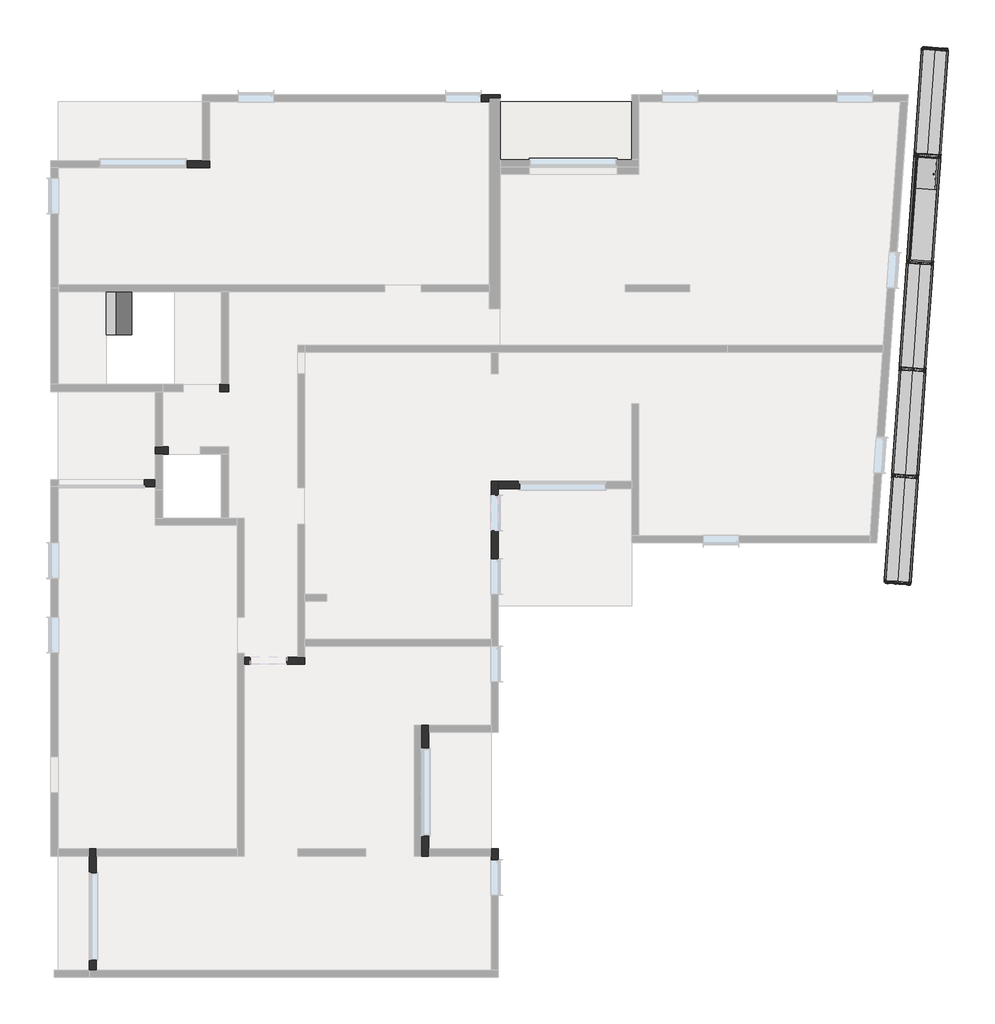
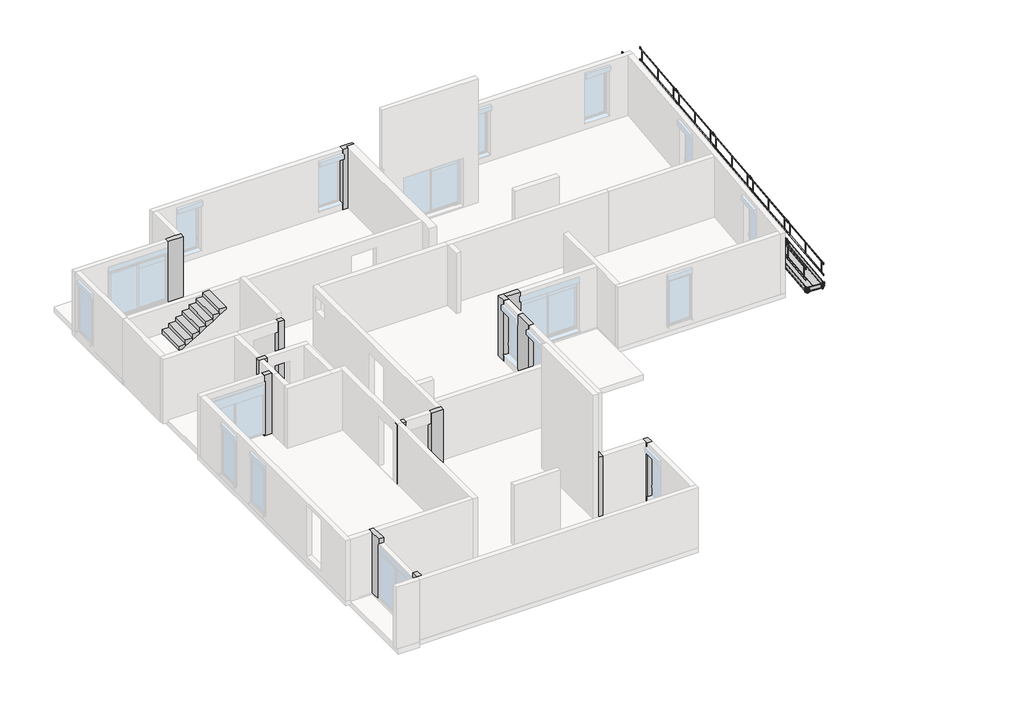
# One storey, part 3 of 3: 55 proxies, 17 columns, 1 slab, 1 stair flight.
"""IFC4 building model written with IfcOpenShell, lengths in millimetres."""

from ifc_helpers import new_model, si_unit, frame, origin, place, context, project, spatial, polyline, outline, extrude, faceted_brep, transform, mapped, element, save
from components import generic_models_b6224320, generic_models_870fb608, generic_models_6026e95e, generic_models_c9bf4d4e, generic_models_8fe25d63, proxy_03_lisse_70_0da8a22d, proxy_04_lisse_3_m_913477d2

model = new_model("IFC4")

# Units and contexts
model_context = context("Model", 3, world=origin())
ifc_project = project(units=[si_unit("LENGTHUNIT", "METRE", prefix="MILLI")], contexts=[model_context])

# Site, building, storey
site = spatial("IfcSite", under=ifc_project)
building = spatial("IfcBuilding", under=site)
storey = spatial("IfcBuildingStorey", under=building, Name="06-Plateau 6", Elevation=10400.0)

# Proxies
placement = place(None, origin())
generic_models_shape = generic_models_b6224320(model_context)
element("IfcBuildingElementProxy", 1, Name="05-Plateau 3.00 m : JPA Plateau Galva", ObjectType="05-Plateau 3.00 m : JPA Plateau Galva", at=placement, inside=storey, context=model_context, shape_type="MappedRepresentation", body=[
    mapped(generic_models_shape, transform((17696.6144519, 11330.0091436, 10400.0), x_axis=(0.06975647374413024, 0.997564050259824, 0.0), y_axis=(-0.997564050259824, 0.06975647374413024, 0.0), z_axis=(0.0, 0.0, 1.0))),
])
element("IfcBuildingElementProxy", 2, Name="05-Plateau 3.00 m : JPA Plateau Galva", ObjectType="05-Plateau 3.00 m : JPA Plateau Galva", at=placement, inside=storey, context=model_context, shape_type="MappedRepresentation", body=[
    mapped(generic_models_shape, transform((18015.8349479, 11307.687072, 10400.0), x_axis=(0.06975647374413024, 0.997564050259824, 0.0), y_axis=(-0.997564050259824, 0.06975647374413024, 0.0), z_axis=(0.0, 0.0, 1.0))),
])
element("IfcBuildingElementProxy", 3, Name="05-Plateau 3.00 m : JPA Plateau Galva", ObjectType="05-Plateau 3.00 m : JPA Plateau Galva", at=placement, inside=storey, context=model_context, shape_type="MappedRepresentation", body=[
    mapped(generic_models_shape, transform((18115.6220564, 17322.0970558, 10400.0), x_axis=(0.06975647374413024, 0.997564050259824, 0.0), y_axis=(-0.997564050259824, 0.06975647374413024, 0.0), z_axis=(0.0, 0.0, 1.0))),
])
element("IfcBuildingElementProxy", 4, Name="05-Plateau 3.00 m : JPA Plateau Galva", ObjectType="05-Plateau 3.00 m : JPA Plateau Galva", at=placement, inside=storey, context=model_context, shape_type="MappedRepresentation", body=[
    mapped(generic_models_shape, transform((18434.8425525, 17299.7749842, 10400.0), x_axis=(0.06975647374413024, 0.997564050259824, 0.0), y_axis=(-0.997564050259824, 0.06975647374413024, 0.0), z_axis=(0.0, 0.0, 1.0))),
])
element("IfcBuildingElementProxy", 5, Name="05-Plateau 3.00 m : JPA Plateau Galva", ObjectType="05-Plateau 3.00 m : JPA Plateau Galva", at=placement, inside=storey, context=model_context, shape_type="MappedRepresentation", body=[
    mapped(generic_models_shape, transform((17487.1106496, 8333.9651875, 10400.0), x_axis=(0.06975647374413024, 0.997564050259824, 0.0), y_axis=(-0.997564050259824, 0.06975647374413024, 0.0), z_axis=(0.0, 0.0, 1.0))),
])
element("IfcBuildingElementProxy", 6, Name="05-Plateau 3.00 m : JPA Plateau Galva", ObjectType="05-Plateau 3.00 m : JPA Plateau Galva", at=placement, inside=storey, context=model_context, shape_type="MappedRepresentation", body=[
    mapped(generic_models_shape, transform((17806.3311456, 8311.6431159, 10400.0), x_axis=(0.06975647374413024, 0.997564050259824, 0.0), y_axis=(-0.997564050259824, 0.06975647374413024, 0.0), z_axis=(0.0, 0.0, 1.0))),
])
element("IfcBuildingElementProxy", 7, Name="05-Plateau 3.00 m : JPA Plateau Galva", ObjectType="05-Plateau 3.00 m : JPA Plateau Galva", at=placement, inside=storey, context=model_context, shape_type="MappedRepresentation", body=[
    mapped(generic_models_shape, transform((17277.6068473, 5337.9212313, 10400.0), x_axis=(0.06975647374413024, 0.997564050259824, 0.0), y_axis=(-0.997564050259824, 0.06975647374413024, 0.0), z_axis=(0.0, 0.0, 1.0))),
])
element("IfcBuildingElementProxy", 8, Name="05-Plateau 3.00 m : JPA Plateau Galva", ObjectType="05-Plateau 3.00 m : JPA Plateau Galva", at=placement, inside=storey, context=model_context, shape_type="MappedRepresentation", body=[
    mapped(generic_models_shape, transform((17596.8273433, 5315.5991597, 10400.0), x_axis=(0.06975647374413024, 0.997564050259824, 0.0), y_axis=(-0.997564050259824, 0.06975647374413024, 0.0), z_axis=(0.0, 0.0, 1.0))),
])
generic_models_2_shape = generic_models_870fb608(model_context)
element("IfcBuildingElementProxy", 9, Name="07-Plancher trappe : JPA Plancher trappe", ObjectType="07-Plancher trappe : JPA Plancher trappe", at=placement, inside=storey, context=model_context, shape_type="MappedRepresentation", body=[
    mapped(generic_models_2_shape, transform((18144.5472757, 17305.6793517, 10400.0), x_axis=(-0.06975647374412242, -0.9975640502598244, 0.0), y_axis=(0.9975640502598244, -0.06975647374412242, 0.0), z_axis=(0.0, 0.0, 1.0))),
])
generic_models_3_shape = generic_models_6026e95e(model_context)
element("IfcBuildingElementProxy", 10, Name="11-Plinthe 0.70 : JPA Plinthe 0.70", ObjectType="11-Plinthe 0.70 : JPA Plinthe 0.70", at=placement, inside=storey, context=model_context, shape_type="MappedRepresentation", body=[
    mapped(generic_models_3_shape, transform((17293.9283677, 5332.6495195, 10400.0), x_axis=(0.9970739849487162, -0.07644258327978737, 0.0), y_axis=(0.07644258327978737, 0.9970739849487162, 0.0), z_axis=(0.0, 0.0, 1.0))),
])
element("IfcBuildingElementProxy", 11, Name="11-Plinthe 0.70 : JPA Plinthe 0.70", ObjectType="11-Plinthe 0.70 : JPA Plinthe 0.70", at=placement, inside=storey, context=model_context, shape_type="MappedRepresentation", body=[
    mapped(generic_models_3_shape, transform((18342.1895888, 20323.4833915, 10400.0), x_axis=(0.9970739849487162, -0.07644258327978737, 0.0), y_axis=(0.07644258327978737, 0.9970739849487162, 0.0), z_axis=(0.0, 0.0, 1.0))),
])
generic_models_4_shape = generic_models_c9bf4d4e(model_context)
element("IfcBuildingElementProxy", 12, Name="12-Plinthe 3 m : JPA Plinthe 3 m", ObjectType="12-Plinthe 3 m : JPA Plinthe 3 m", at=placement, inside=storey, context=model_context, shape_type="MappedRepresentation", body=[
    mapped(generic_models_4_shape, transform((17696.788843, 11332.5030537, 10400.0), x_axis=(0.06975647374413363, 0.9975640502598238, 0.0), y_axis=(-0.9975640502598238, 0.06975647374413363, 0.0), z_axis=(0.0, 0.0, 1.0))),
])
element("IfcBuildingElementProxy", 13, Name="12-Plinthe 3 m : JPA Plinthe 3 m", ObjectType="12-Plinthe 3 m : JPA Plinthe 3 m", at=placement, inside=storey, context=model_context, shape_type="MappedRepresentation", body=[
    mapped(generic_models_4_shape, transform((18395.0836782, 11283.6735221, 10400.0), x_axis=(0.06975647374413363, 0.9975640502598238, 0.0), y_axis=(-0.9975640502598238, 0.06975647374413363, 0.0), z_axis=(0.0, 0.0, 1.0))),
])
element("IfcBuildingElementProxy", 14, Name="12-Plinthe 3 m : JPA Plinthe 3 m", ObjectType="12-Plinthe 3 m : JPA Plinthe 3 m", at=placement, inside=storey, context=model_context, shape_type="MappedRepresentation", body=[
    mapped(generic_models_4_shape, transform((17906.2926453, 14328.5470098, 10400.0), x_axis=(0.06975647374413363, 0.9975640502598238, 0.0), y_axis=(-0.9975640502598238, 0.06975647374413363, 0.0), z_axis=(0.0, 0.0, 1.0))),
])
element("IfcBuildingElementProxy", 15, Name="12-Plinthe 3 m : JPA Plinthe 3 m", ObjectType="12-Plinthe 3 m : JPA Plinthe 3 m", at=placement, inside=storey, context=model_context, shape_type="MappedRepresentation", body=[
    mapped(generic_models_4_shape, transform((18604.5874805, 14279.7174782, 10400.0), x_axis=(0.06975647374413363, 0.9975640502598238, 0.0), y_axis=(-0.9975640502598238, 0.06975647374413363, 0.0), z_axis=(0.0, 0.0, 1.0))),
])
element("IfcBuildingElementProxy", 16, Name="12-Plinthe 3 m : JPA Plinthe 3 m", ObjectType="12-Plinthe 3 m : JPA Plinthe 3 m", at=placement, inside=storey, context=model_context, shape_type="MappedRepresentation", body=[
    mapped(generic_models_4_shape, transform((18115.7964476, 17324.590966, 10400.0), x_axis=(0.06975647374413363, 0.9975640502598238, 0.0), y_axis=(-0.9975640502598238, 0.06975647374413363, 0.0), z_axis=(0.0, 0.0, 1.0))),
])
element("IfcBuildingElementProxy", 17, Name="12-Plinthe 3 m : JPA Plinthe 3 m", ObjectType="12-Plinthe 3 m : JPA Plinthe 3 m", at=placement, inside=storey, context=model_context, shape_type="MappedRepresentation", body=[
    mapped(generic_models_4_shape, transform((18814.0912828, 17275.7614343, 10400.0), x_axis=(0.06975647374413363, 0.9975640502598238, 0.0), y_axis=(-0.9975640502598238, 0.06975647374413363, 0.0), z_axis=(0.0, 0.0, 1.0))),
])
element("IfcBuildingElementProxy", 18, Name="12-Plinthe 3 m : JPA Plinthe 3 m", ObjectType="12-Plinthe 3 m : JPA Plinthe 3 m", at=placement, inside=storey, context=model_context, shape_type="MappedRepresentation", body=[
    mapped(generic_models_4_shape, transform((17487.2850407, 8336.4590976, 10400.0), x_axis=(0.06975647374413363, 0.9975640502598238, 0.0), y_axis=(-0.9975640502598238, 0.06975647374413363, 0.0), z_axis=(0.0, 0.0, 1.0))),
])
element("IfcBuildingElementProxy", 19, Name="12-Plinthe 3 m : JPA Plinthe 3 m", ObjectType="12-Plinthe 3 m : JPA Plinthe 3 m", at=placement, inside=storey, context=model_context, shape_type="MappedRepresentation", body=[
    mapped(generic_models_4_shape, transform((18185.5798759, 8287.629566, 10400.0), x_axis=(0.06975647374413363, 0.9975640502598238, 0.0), y_axis=(-0.9975640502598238, 0.06975647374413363, 0.0), z_axis=(0.0, 0.0, 1.0))),
])
element("IfcBuildingElementProxy", 20, Name="12-Plinthe 3 m : JPA Plinthe 3 m", ObjectType="12-Plinthe 3 m : JPA Plinthe 3 m", at=placement, inside=storey, context=model_context, shape_type="MappedRepresentation", body=[
    mapped(generic_models_4_shape, transform((17277.7812384, 5340.4151415, 10400.0), x_axis=(0.06975647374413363, 0.9975640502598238, 0.0), y_axis=(-0.9975640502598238, 0.06975647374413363, 0.0), z_axis=(0.0, 0.0, 1.0))),
])
element("IfcBuildingElementProxy", 21, Name="12-Plinthe 3 m : JPA Plinthe 3 m", ObjectType="12-Plinthe 3 m : JPA Plinthe 3 m", at=placement, inside=storey, context=model_context, shape_type="MappedRepresentation", body=[
    mapped(generic_models_4_shape, transform((17976.0760736, 5291.5856098, 10400.0), x_axis=(0.06975647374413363, 0.9975640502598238, 0.0), y_axis=(-0.9975640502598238, 0.06975647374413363, 0.0), z_axis=(0.0, 0.0, 1.0))),
])
generic_models_5_shape = generic_models_8fe25d63(model_context)
element("IfcBuildingElementProxy", 22, Name="14-Garde corps 300 : JPA Garde corps 300", ObjectType="14-Garde corps 300 : JPA Garde corps 300", at=placement, inside=storey, context=model_context, shape_type="MappedRepresentation", body=[
    mapped(generic_models_5_shape, transform((17696.7673576, 11331.7493383, 10400.0), x_axis=(0.06975647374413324, 0.9975640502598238, 0.0), y_axis=(-0.9975640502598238, 0.06975647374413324, 0.0), z_axis=(0.0, 0.0, 1.0))),
])
element("IfcBuildingElementProxy", 23, Name="14-Garde corps 300 : JPA Garde corps 300", ObjectType="14-Garde corps 300 : JPA Garde corps 300", at=placement, inside=storey, context=model_context, shape_type="MappedRepresentation", body=[
    mapped(generic_models_5_shape, transform((17906.2711598, 14327.7932944, 10400.0), x_axis=(0.06975647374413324, 0.9975640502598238, 0.0), y_axis=(-0.9975640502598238, 0.06975647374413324, 0.0), z_axis=(0.0, 0.0, 1.0))),
])
element("IfcBuildingElementProxy", 24, Name="14-Garde corps 300 : JPA Garde corps 300", ObjectType="14-Garde corps 300 : JPA Garde corps 300", at=placement, inside=storey, context=model_context, shape_type="MappedRepresentation", body=[
    mapped(generic_models_5_shape, transform((18115.7749621, 17323.8372506, 10400.0), x_axis=(0.06975647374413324, 0.9975640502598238, 0.0), y_axis=(-0.9975640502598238, 0.06975647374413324, 0.0), z_axis=(0.0, 0.0, 1.0))),
])
element("IfcBuildingElementProxy", 25, Name="14-Garde corps 300 : JPA Garde corps 300", ObjectType="14-Garde corps 300 : JPA Garde corps 300", at=placement, inside=storey, context=model_context, shape_type="MappedRepresentation", body=[
    mapped(generic_models_5_shape, transform((17487.2635553, 8335.7053822, 10400.0), x_axis=(0.06975647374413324, 0.9975640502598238, 0.0), y_axis=(-0.9975640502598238, 0.06975647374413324, 0.0), z_axis=(0.0, 0.0, 1.0))),
])
element("IfcBuildingElementProxy", 26, Name="14-Garde corps 300 : JPA Garde corps 300", ObjectType="14-Garde corps 300 : JPA Garde corps 300", at=placement, inside=storey, context=model_context, shape_type="MappedRepresentation", body=[
    mapped(generic_models_5_shape, transform((18814.2002275, 17273.8372506, 10400.0), x_axis=(0.06975647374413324, 0.9975640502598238, 0.0), y_axis=(-0.9975640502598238, 0.06975647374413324, 0.0), z_axis=(0.0, 0.0, 1.0))),
])
element("IfcBuildingElementProxy", 27, Name="14-Garde corps 300 : JPA Garde corps 300", ObjectType="14-Garde corps 300 : JPA Garde corps 300", at=placement, inside=storey, context=model_context, shape_type="MappedRepresentation", body=[
    mapped(generic_models_5_shape, transform((18604.2002275, 14273.8372506, 10400.0), x_axis=(0.06975647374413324, 0.9975640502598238, 0.0), y_axis=(-0.9975640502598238, 0.06975647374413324, 0.0), z_axis=(0.0, 0.0, 1.0))),
])
element("IfcBuildingElementProxy", 28, Name="14-Garde corps 300 : JPA Garde corps 300", ObjectType="14-Garde corps 300 : JPA Garde corps 300", at=placement, inside=storey, context=model_context, shape_type="MappedRepresentation", body=[
    mapped(generic_models_5_shape, transform((18394.9308063, 11281.1450998, 10400.0), x_axis=(0.06975647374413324, 0.9975640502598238, 0.0), y_axis=(-0.9975640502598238, 0.06975647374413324, 0.0), z_axis=(0.0, 0.0, 1.0))),
])
element("IfcBuildingElementProxy", 29, Name="14-Garde corps 300 : JPA Garde corps 300", ObjectType="14-Garde corps 300 : JPA Garde corps 300", at=placement, inside=storey, context=model_context, shape_type="MappedRepresentation", body=[
    mapped(generic_models_5_shape, transform((18185.427004, 8285.1011437, 10400.0), x_axis=(0.06975647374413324, 0.9975640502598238, 0.0), y_axis=(-0.9975640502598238, 0.06975647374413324, 0.0), z_axis=(0.0, 0.0, 1.0))),
])
element("IfcBuildingElementProxy", 30, Name="14-Garde corps 300 : JPA Garde corps 300", ObjectType="14-Garde corps 300 : JPA Garde corps 300", at=placement, inside=storey, context=model_context, shape_type="MappedRepresentation", body=[
    mapped(generic_models_5_shape, transform((17277.759753, 5339.6614261, 10400.0), x_axis=(0.06975647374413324, 0.9975640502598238, 0.0), y_axis=(-0.9975640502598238, 0.06975647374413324, 0.0), z_axis=(0.0, 0.0, 1.0))),
])
element("IfcBuildingElementProxy", 31, Name="14-Garde corps 300 : JPA Garde corps 300", ObjectType="14-Garde corps 300 : JPA Garde corps 300", at=placement, inside=storey, context=model_context, shape_type="MappedRepresentation", body=[
    mapped(generic_models_5_shape, transform((17975.9232017, 5289.0571875, 10400.0), x_axis=(0.06975647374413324, 0.9975640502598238, 0.0), y_axis=(-0.9975640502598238, 0.06975647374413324, 0.0), z_axis=(0.0, 0.0, 1.0))),
])
proxy_03_lisse_70_shape = proxy_03_lisse_70_0da8a22d(model_context)
element("IfcBuildingElementProxy", 32, Name="03-Lisse 70 : JPA Lisse Galva", ObjectType="03-Lisse 70 : JPA Lisse Galva", at=placement, inside=storey, context=model_context, shape_type="MappedRepresentation", body=[
    mapped(proxy_03_lisse_70_shape, transform((17687.6637048, 11325.7592688, 10400.0), x_axis=(0.9975640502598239, -0.06975647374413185, 0.0), y_axis=(0.06975647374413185, 0.9975640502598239, 0.0), z_axis=(0.0, 0.0, 1.0))),
])
element("IfcBuildingElementProxy", 33, Name="03-Lisse 70 : JPA Lisse Galva", ObjectType="03-Lisse 70 : JPA Lisse Galva", at=placement, inside=storey, context=model_context, shape_type="MappedRepresentation", body=[
    mapped(proxy_03_lisse_70_shape, transform((17897.1675071, 14321.8032249, 10400.0), x_axis=(0.9975640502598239, -0.06975647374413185, 0.0), y_axis=(0.06975647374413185, 0.9975640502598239, 0.0), z_axis=(0.0, 0.0, 1.0))),
])
element("IfcBuildingElementProxy", 34, Name="03-Lisse 70 : JPA Lisse Galva", ObjectType="03-Lisse 70 : JPA Lisse Galva", at=placement, inside=storey, context=model_context, shape_type="MappedRepresentation", body=[
    mapped(proxy_03_lisse_70_shape, transform((18106.6713094, 17317.847181, 10400.0), x_axis=(0.9975640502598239, -0.06975647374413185, 0.0), y_axis=(0.06975647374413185, 0.9975640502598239, 0.0), z_axis=(0.0, 0.0, 1.0))),
])
element("IfcBuildingElementProxy", 35, Name="03-Lisse 70 : JPA Lisse Galva", ObjectType="03-Lisse 70 : JPA Lisse Galva", at=placement, inside=storey, context=model_context, shape_type="MappedRepresentation", body=[
    mapped(proxy_03_lisse_70_shape, transform((18311.1751117, 20323.8911372, 10400.0), x_axis=(0.9975640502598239, -0.06975647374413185, 0.0), y_axis=(0.06975647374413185, 0.9975640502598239, 0.0), z_axis=(0.0, 0.0, 1.0))),
])
element("IfcBuildingElementProxy", 36, Name="03-Lisse 70 : JPA Lisse Galva", ObjectType="03-Lisse 70 : JPA Lisse Galva", at=placement, inside=storey, context=model_context, shape_type="MappedRepresentation", body=[
    mapped(proxy_03_lisse_70_shape, transform((17478.1599025, 8329.7153127, 10400.0), x_axis=(0.9975640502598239, -0.06975647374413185, 0.0), y_axis=(0.06975647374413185, 0.9975640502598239, 0.0), z_axis=(0.0, 0.0, 1.0))),
])
element("IfcBuildingElementProxy", 37, Name="03-Lisse 70 : JPA Lisse Galva", ObjectType="03-Lisse 70 : JPA Lisse Galva", at=placement, inside=storey, context=model_context, shape_type="MappedRepresentation", body=[
    mapped(proxy_03_lisse_70_shape, transform((17478.1599025, 8329.7153127, 10400.0), x_axis=(0.9975640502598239, -0.06975647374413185, 0.0), y_axis=(0.06975647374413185, 0.9975640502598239, 0.0), z_axis=(0.0, 0.0, 1.0))),
])
element("IfcBuildingElementProxy", 38, Name="03-Lisse 70 : JPA Lisse Galva", ObjectType="03-Lisse 70 : JPA Lisse Galva", at=placement, inside=storey, context=model_context, shape_type="MappedRepresentation", body=[
    mapped(proxy_03_lisse_70_shape, transform((17268.6561002, 5333.6713565, 10400.0), x_axis=(0.9975640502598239, -0.06975647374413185, 0.0), y_axis=(0.06975647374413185, 0.9975640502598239, 0.0), z_axis=(0.0, 0.0, 1.0))),
])
proxy_04_lisse_3_m_shape = proxy_04_lisse_3_m_913477d2(model_context)
element("IfcBuildingElementProxy", 39, Name="04-Lisse 3 m : JPA Lisse Galva", ObjectType="04-Lisse 3 m : JPA Lisse Galva", at=placement, inside=storey, context=model_context, shape_type="MappedRepresentation", body=[
    mapped(proxy_04_lisse_3_m_shape, transform((18185.5798759, 8287.629566, 10400.0), x_axis=(0.06975647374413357, 0.9975640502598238, 0.0), y_axis=(-0.9975640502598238, 0.06975647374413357, 0.0), z_axis=(0.0, 0.0, 1.0))),
])
element("IfcBuildingElementProxy", 40, Name="04-Lisse 3 m : JPA Lisse Galva", ObjectType="04-Lisse 3 m : JPA Lisse Galva", at=placement, inside=storey, context=model_context, shape_type="MappedRepresentation", body=[
    mapped(proxy_04_lisse_3_m_shape, transform((18394.2117223, 11271.2039715, 10400.0), x_axis=(0.06975647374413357, 0.9975640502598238, 0.0), y_axis=(-0.9975640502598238, 0.06975647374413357, 0.0), z_axis=(0.0, 0.0, 1.0))),
])
element("IfcBuildingElementProxy", 41, Name="04-Lisse 3 m : JPA Lisse Galva", ObjectType="04-Lisse 3 m : JPA Lisse Galva", at=placement, inside=storey, context=model_context, shape_type="MappedRepresentation", body=[
    mapped(proxy_04_lisse_3_m_shape, transform((18604.1764114, 14273.838916, 10400.0), x_axis=(0.06975647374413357, 0.9975640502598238, 0.0), y_axis=(-0.9975640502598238, 0.06975647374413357, 0.0), z_axis=(0.0, 0.0, 1.0))),
])
element("IfcBuildingElementProxy", 42, Name="04-Lisse 3 m : JPA Lisse Galva", ObjectType="04-Lisse 3 m : JPA Lisse Galva", at=placement, inside=storey, context=model_context, shape_type="MappedRepresentation", body=[
    mapped(proxy_04_lisse_3_m_shape, transform((18813.5502996, 17268.0250134, 10400.0), x_axis=(0.06975647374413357, 0.9975640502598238, 0.0), y_axis=(-0.9975640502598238, 0.06975647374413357, 0.0), z_axis=(0.0, 0.0, 1.0))),
])
element("IfcBuildingElementProxy", 43, Name="04-Lisse 3 m : JPA Lisse Galva", ObjectType="04-Lisse 3 m : JPA Lisse Galva", at=placement, inside=storey, context=model_context, shape_type="MappedRepresentation", body=[
    mapped(proxy_04_lisse_3_m_shape, transform((17976.0760736, 5291.5856098, 10400.0), x_axis=(0.06975647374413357, 0.9975640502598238, 0.0), y_axis=(-0.9975640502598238, 0.06975647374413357, 0.0), z_axis=(0.0, 0.0, 1.0))),
])
element("IfcBuildingElementProxy", 44, Name="04-Lisse 3 m : JPA Lisse Galva", ObjectType="04-Lisse 3 m : JPA Lisse Galva", at=placement, inside=storey, context=model_context, shape_type="MappedRepresentation", body=[
    mapped(proxy_04_lisse_3_m_shape, transform((17487.2850407, 8336.4590976, 10400.0), x_axis=(0.06975647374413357, 0.9975640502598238, 0.0), y_axis=(-0.9975640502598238, 0.06975647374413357, 0.0), z_axis=(0.0, 0.0, 1.0))),
])
element("IfcBuildingElementProxy", 45, Name="04-Lisse 3 m : JPA Lisse Galva", ObjectType="04-Lisse 3 m : JPA Lisse Galva", at=placement, inside=storey, context=model_context, shape_type="MappedRepresentation", body=[
    mapped(proxy_04_lisse_3_m_shape, transform((17695.9168871, 11320.0335031, 10400.0), x_axis=(0.06975647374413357, 0.9975640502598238, 0.0), y_axis=(-0.9975640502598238, 0.06975647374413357, 0.0), z_axis=(0.0, 0.0, 1.0))),
])
element("IfcBuildingElementProxy", 46, Name="04-Lisse 3 m : JPA Lisse Galva", ObjectType="04-Lisse 3 m : JPA Lisse Galva", at=placement, inside=storey, context=model_context, shape_type="MappedRepresentation", body=[
    mapped(proxy_04_lisse_3_m_shape, transform((17905.8815762, 14322.6684476, 10400.0), x_axis=(0.06975647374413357, 0.9975640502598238, 0.0), y_axis=(-0.9975640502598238, 0.06975647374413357, 0.0), z_axis=(0.0, 0.0, 1.0))),
])
element("IfcBuildingElementProxy", 47, Name="04-Lisse 3 m : JPA Lisse Galva", ObjectType="04-Lisse 3 m : JPA Lisse Galva", at=placement, inside=storey, context=model_context, shape_type="MappedRepresentation", body=[
    mapped(proxy_04_lisse_3_m_shape, transform((18115.2554644, 17316.8545451, 10400.0), x_axis=(0.06975647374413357, 0.9975640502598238, 0.0), y_axis=(-0.9975640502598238, 0.06975647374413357, 0.0), z_axis=(0.0, 0.0, 1.0))),
])
element("IfcBuildingElementProxy", 48, Name="04-Lisse 3 m : JPA Lisse Galva", ObjectType="04-Lisse 3 m : JPA Lisse Galva", at=placement, inside=storey, context=model_context, shape_type="MappedRepresentation", body=[
    mapped(proxy_04_lisse_3_m_shape, transform((17277.7812384, 5340.4151415, 10400.0), x_axis=(0.06975647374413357, 0.9975640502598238, 0.0), y_axis=(-0.9975640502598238, 0.06975647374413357, 0.0), z_axis=(0.0, 0.0, 1.0))),
])
element("IfcBuildingElementProxy", 49, Name="04-Lisse 3 m : JPA Lisse Galva", ObjectType="04-Lisse 3 m : JPA Lisse Galva", at=placement, inside=storey, context=model_context, shape_type="MappedRepresentation", body=[
    mapped(proxy_04_lisse_3_m_shape, transform((17500.8765554, 8353.1677495, 10400.0), x_axis=(0.06975647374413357, 0.9975640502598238, 0.0), y_axis=(-0.9975640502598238, 0.06975647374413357, 0.0), z_axis=(0.0, 0.0, 1.0))),
])
element("IfcBuildingElementProxy", 50, Name="04-Lisse 3 m : JPA Lisse Galva", ObjectType="04-Lisse 3 m : JPA Lisse Galva", at=placement, inside=storey, context=model_context, shape_type="MappedRepresentation", body=[
    mapped(proxy_04_lisse_3_m_shape, transform((17709.5084018, 11336.742155, 10400.0), x_axis=(0.06975647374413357, 0.9975640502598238, 0.0), y_axis=(-0.9975640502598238, 0.06975647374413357, 0.0), z_axis=(0.0, 0.0, 1.0))),
])
element("IfcBuildingElementProxy", 51, Name="04-Lisse 3 m : JPA Lisse Galva", ObjectType="04-Lisse 3 m : JPA Lisse Galva", at=placement, inside=storey, context=model_context, shape_type="MappedRepresentation", body=[
    mapped(proxy_04_lisse_3_m_shape, transform((17919.4730909, 14339.3770995, 10400.0), x_axis=(0.06975647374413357, 0.9975640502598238, 0.0), y_axis=(-0.9975640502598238, 0.06975647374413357, 0.0), z_axis=(0.0, 0.0, 1.0))),
])
element("IfcBuildingElementProxy", 52, Name="04-Lisse 3 m : JPA Lisse Galva", ObjectType="04-Lisse 3 m : JPA Lisse Galva", at=placement, inside=storey, context=model_context, shape_type="MappedRepresentation", body=[
    mapped(proxy_04_lisse_3_m_shape, transform((18128.846979, 17333.563197, 10400.0), x_axis=(0.06975647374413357, 0.9975640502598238, 0.0), y_axis=(-0.9975640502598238, 0.06975647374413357, 0.0), z_axis=(0.0, 0.0, 1.0))),
])
element("IfcBuildingElementProxy", 53, Name="04-Lisse 3 m : JPA Lisse Galva", ObjectType="04-Lisse 3 m : JPA Lisse Galva", at=placement, inside=storey, context=model_context, shape_type="MappedRepresentation", body=[
    mapped(proxy_04_lisse_3_m_shape, transform((17291.3727531, 5357.1237934, 10400.0), x_axis=(0.06975647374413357, 0.9975640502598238, 0.0), y_axis=(-0.9975640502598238, 0.06975647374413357, 0.0), z_axis=(0.0, 0.0, 1.0))),
])
element("IfcBuildingElementProxy", 54, Name="04-Lisse 3 m : JPA Lisse Galva", ObjectType="04-Lisse 3 m : JPA Lisse Galva", at=placement, inside=storey, context=model_context, shape_type="MappedRepresentation", body=[
    mapped(proxy_04_lisse_3_m_shape, transform((18604.1764114, 14271.2936372, 9904.432796), x_axis=(0.06975647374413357, 0.9975640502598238, 0.0), y_axis=(-0.9975640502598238, 0.06975647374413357, 0.0), z_axis=(0.0, 0.0, 1.0))),
])
element("IfcBuildingElementProxy", 55, Name="04-Lisse 3 m : JPA Lisse Galva", ObjectType="04-Lisse 3 m : JPA Lisse Galva", at=placement, inside=storey, context=model_context, shape_type="MappedRepresentation", body=[
    mapped(proxy_04_lisse_3_m_shape, transform((17919.4730909, 14336.8318207, 9904.432796), x_axis=(0.06975647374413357, 0.9975640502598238, 0.0), y_axis=(-0.9975640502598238, 0.06975647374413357, 0.0), z_axis=(0.0, 0.0, 1.0))),
])

# Columns
element("IfcColumn", 56, ObjectType="Poteau béton - Rectangulaire : 200x175", at=placement, inside=storey, context=model_context, shape_type="Brep", body=[
    faceted_brep([(-512.0447796, 3039.8622276, 9740.0), (-687.0447796, 3039.8622276, 9740.0), (-687.0447796, 3239.8622276, 9740.0), (-512.0447796, 3239.8622276, 9740.0), (-512.0447796, 3039.8622276, 11910.0), (-512.0447796, 3039.8622276, 12340.0), (-687.0447796, 3039.8622276, 12340.0), (-687.0447796, 3239.8622276, 12340.0), (-512.0447796, 3239.8622276, 12340.0), (-512.0447796, 3239.8622276, 11910.0)], [[[0, 1, 2, 3]], [[1, 0, 4, 5, 6]], [[2, 1, 6, 7]], [[3, 2, 7, 8, 9]], [[0, 3, 9, 8, 5, 4]], [[6, 5, 8, 7]]]),
])
element("IfcColumn", 57, ObjectType="Poteau béton - Rectangulaire : 200x250 mm", at=placement, inside=storey, context=model_context, shape_type="Brep", body=[
    faceted_brep([(-1377.0447796, 10879.8622276, 9740.0), (-1327.0447796, 10879.8622276, 9740.0), (-1127.0447796, 10879.8622276, 9740.0), (-1127.0447796, 10679.8622276, 9740.0), (-1377.0447796, 10679.8622276, 9740.0), (-1377.0447796, 10879.8622276, 11910.0), (-1377.0447796, 10879.8622276, 12340.0), (-1327.0447796, 10879.8622276, 12340.0), (-1127.0447796, 10879.8622276, 12340.0), (-1127.0447796, 10679.8622276, 12340.0), (-1377.0447796, 10679.8622276, 12340.0), (-1377.0447796, 10679.8622276, 11910.0)], [[[0, 1, 2, 3, 4]], [[2, 1, 0, 5, 6, 7, 8]], [[3, 2, 8, 9]], [[4, 3, 9, 10, 11]], [[0, 4, 11, 10, 6, 5]], [[8, 7, 6, 10, 9]]]),
])
element("IfcColumn", 58, ObjectType="Poteau béton - Rectangulaire : 200x360 mm", at=placement, inside=storey, context=model_context, shape_type="Brep", body=[
    faceted_brep([(-3177.0447796, 9129.8622276, 9740.0), (-2977.0447796, 9129.8622276, 9740.0), (-2817.0447796, 9129.8622276, 9740.0), (-2817.0447796, 8929.8622276, 9740.0), (-2977.0447796, 8929.8622276, 9740.0), (-3177.0447796, 8929.8622276, 9740.0), (-3177.0447796, 9129.8622276, 12340.0), (-2817.0447796, 9129.8622276, 12340.0), (-2817.0447796, 9129.8622276, 11910.0), (-2817.0447796, 8929.8622276, 12340.0), (-2817.0447796, 8929.8622276, 11910.0), (-3177.0447796, 8929.8622276, 12340.0)], [[[0, 1, 2, 3, 4, 5]], [[2, 1, 0, 6, 7, 8]], [[3, 2, 8, 7, 9, 10]], [[5, 4, 3, 10, 9, 11]], [[0, 5, 11, 6]], [[7, 6, 11, 9]]]),
])
element("IfcColumn", 59, ObjectType="Poteau béton - Rectangulaire : 200x505", at=placement, inside=storey, context=model_context, shape_type="Brep", body=[
    faceted_brep([(1012.9552204, 3039.8622276, 9740.0), (507.9552204, 3039.8622276, 9740.0), (507.9552204, 3239.8622276, 9740.0), (812.9552204, 3239.8622276, 9740.0), (1012.9552204, 3239.8622276, 9740.0), (1012.9552204, 3039.8622276, 12340.0), (507.9552204, 3039.8622276, 12340.0), (507.9552204, 3039.8622276, 11910.0), (507.9552204, 3239.8622276, 12340.0), (507.9552204, 3239.8622276, 11910.0), (1012.9552204, 3239.8622276, 12340.0)], [[[0, 1, 2, 3, 4]], [[1, 0, 5, 6, 7]], [[2, 1, 7, 6, 8, 9]], [[4, 3, 2, 9, 8, 10]], [[0, 4, 10, 5]], [[6, 5, 10, 8]]]),
])
element("IfcColumn", 60, ObjectType="Poteau béton - Rectangulaire : 200x510 mm", at=placement, inside=storey, context=model_context, shape_type="SweptSolid", body=[
    extrude(outline(polyline([(-3487.0447796, 8009.8622276), (-3487.0447796, 8209.8622276), (-3177.0447796, 8209.8622276), (-3177.0447796, 8009.8622276), (-3487.0447796, 8009.8622276)])), frame((0.0, 0.0, 9740.0), z_axis=(0.0, 0.0, 1.0), x_axis=(1.0, 0.0, 0.0)), (0.0, 0.0, 1.0), 2630.0),
])
element("IfcColumn", 61, ObjectType="Poteau béton - Rectangulaire : 20x30", at=placement, inside=storey, context=model_context, shape_type="SweptSolid", body=[
    extrude(outline(polyline([(-687.0447796, 3339.8622276), (-687.0447796, 3039.8622276), (-887.0447796, 3039.8622276), (-887.0447796, 3339.8622276), (-687.0447796, 3339.8622276)])), frame((0.0, 0.0, 9740.0), z_axis=(0.0, 0.0, 1.0), x_axis=(1.0, 0.0, 0.0)), (0.0, 0.0, 1.0), 2600.0),
])
element("IfcColumn", 62, ObjectType="Poteau béton - Rectangulaire : 20x30", at=placement, inside=storey, context=model_context, shape_type="SweptSolid", body=[
    extrude(outline(polyline([(-4837.0447796, -5240.1377724), (-4837.0447796, -5540.1377724), (-5037.0447796, -5540.1377724), (-5037.0447796, -5240.1377724), (-4837.0447796, -5240.1377724)])), frame((0.0, 0.0, 9740.0), z_axis=(0.0, 0.0, 1.0), x_axis=(1.0, 0.0, 0.0)), (0.0, 0.0, 1.0), 2630.0),
])
element("IfcColumn", 63, ObjectType="Poteau béton - Rectangulaire : 20x30", at=placement, inside=storey, context=model_context, shape_type="Brep", body=[
    faceted_brep([(6432.9552204, -2140.1377724, 9740.0), (6432.9552204, -2142.5306807, 9740.0), (6432.9552204, -2440.1377724, 9740.0), (6232.9552204, -2440.1377724, 9740.0), (6232.9552204, -2340.1377724, 9740.0), (6233.3552204, -2340.1377724, 9740.0), (6233.3552204, -2142.5306807, 9740.0), (6233.3552204, -2140.1377724, 9740.0), (6432.9552204, -2140.1377724, 9760.0), (6432.9552204, -2140.1377724, 12220.0), (6432.9552204, -2140.1377724, 12370.0), (6432.9552204, -2440.1377724, 12370.0), (6432.9552204, -2440.1377724, 12210.0), (6432.9552204, -2440.1377724, 10010.0), (6232.9552204, -2440.1377724, 12370.0), (6232.9552204, -2440.1377724, 12210.0), (6232.9552204, -2440.1377724, 10010.0), (6232.9552204, -2340.1377724, 12370.0), (6233.3552204, -2140.1377724, 12370.0), (6233.3552204, -2340.1377724, 12370.0)], [[[0, 1, 2, 3, 4, 5, 6, 7]], [[2, 1, 0, 8, 9, 10, 11, 12, 13]], [[3, 2, 13, 12, 11, 14, 15, 16]], [[3, 16, 15, 14, 17, 4]], [[10, 9, 8, 0, 7, 18]], [[11, 10, 18, 19, 17, 14]], [[19, 5, 4, 17]], [[5, 19, 18, 7, 6]]]),
])
element("IfcColumn", 64, ObjectType="Poteau béton - Rectangulaire : 20x38", at=placement, inside=storey, context=model_context, shape_type="Brep", body=[
    faceted_brep([(6432.9552204, 8159.8622276, 9740.0), (6432.9552204, 7959.8622276, 9740.0), (6432.9552204, 7779.8622276, 9740.0), (6232.9552204, 7779.8622276, 9740.0), (6232.9552204, 8159.8622276, 9740.0), (6432.9552204, 8159.8622276, 12370.0), (6432.9552204, 7959.8622276, 12370.0), (6432.9552204, 7779.8622276, 12370.0), (6432.9552204, 7779.8622276, 11910.0), (6432.9552204, 7779.8622276, 10010.0), (6432.9552204, 8159.8622276, 12220.0), (6232.9552204, 7779.8622276, 12370.0), (6232.9552204, 7779.8622276, 11910.0), (6232.9552204, 7779.8622276, 10010.0), (6232.9552204, 8159.8622276, 12370.0), (6232.9552204, 8159.8622276, 12220.0)], [[[0, 1, 2, 3, 4]], [[5, 6, 7, 8, 9, 2, 1, 0, 10]], [[7, 11, 12, 13, 3, 2, 9, 8]], [[11, 14, 15, 4, 3, 13, 12]], [[14, 5, 10, 0, 4, 15]], [[5, 14, 11, 7, 6]]]),
])
element("IfcColumn", 65, ObjectType="Poteau béton - Rectangulaire : 20x47", at=placement, inside=storey, context=model_context, shape_type="Brep", body=[
    faceted_brep([(-6107.0447796, 17149.8622276, 9740.0), (-5907.0447796, 17149.8622276, 9740.0), (-5907.0447796, 16949.8622276, 9740.0), (-6107.0447796, 16949.8622276, 9740.0), (-6107.0447796, 17149.8622276, 12370.0), (-6107.0447796, 17149.8622276, 12210.0), (-6107.0447796, 17149.8622276, 10410.0), (-6107.0447796, 16949.8622276, 12370.0), (-5907.0447796, 17149.8622276, 12370.0), (-5907.0447796, 17149.8622276, 12210.0), (-5907.0447796, 17149.8622276, 10410.0), (-5907.0447796, 16949.8622276, 12370.0)], [[[0, 1, 2, 3]], [[4, 5, 6, 0, 3, 7]], [[1, 0, 6, 5, 4, 8, 9, 10]], [[1, 10, 9, 8, 11, 2]], [[8, 4, 7, 11]], [[3, 2, 11, 7]]]),
])
element("IfcColumn", 66, ObjectType="Poteau béton - Rectangulaire : 20x52", at=placement, inside=storey, context=model_context, shape_type="Brep", body=[
    faceted_brep([(5962.9552204, 18799.8622276, 9740.0), (5962.9552204, 18999.8622276, 9740.0), (6482.9552204, 18999.8622276, 9740.0), (6482.9552204, 18899.8622276, 9740.0), (6182.9552204, 18899.8622276, 9740.0), (6182.9552204, 18799.8622276, 9740.0), (5962.9552204, 18799.8622276, 12370.0), (5962.9552204, 18799.8622276, 12210.0), (5962.9552204, 18799.8622276, 10010.0), (6182.9552204, 18799.8622276, 12370.0), (5962.9552204, 18999.8622276, 12370.0), (5962.9552204, 18999.8622276, 12210.0), (5962.9552204, 18999.8622276, 10010.0), (6332.9552204, 18999.8622276, 12370.0), (6482.9552204, 18999.8622276, 12370.0), (6482.9552204, 18999.8622276, 12220.0), (6482.9552204, 18999.8622276, 9760.0), (6482.9552204, 18899.8622276, 12370.0), (6182.9552204, 18899.8622276, 12370.0), (6232.9552204, 18899.8622276, 12370.0)], [[[0, 1, 2, 3, 4, 5]], [[6, 7, 8, 0, 5, 9]], [[1, 0, 8, 7, 6, 10, 11, 12]], [[2, 1, 12, 11, 10, 13, 14, 15, 16]], [[2, 16, 15, 14, 17, 3]], [[10, 6, 9, 18, 19, 17, 14, 13]], [[4, 18, 9, 5]], [[18, 4, 3, 17, 19]]]),
])
element("IfcColumn", 67, ObjectType="Poteau béton - Rectangulaire : 20x57", at=placement, inside=storey, context=model_context, shape_type="Brep", body=[
    faceted_brep([(4478.3552204, -1770.1377724, 9740.0), (4478.3552204, -2142.5306807, 9740.0), (4478.3552204, -2340.1377724, 9740.0), (4278.3552204, -2340.1377724, 9740.0), (4278.3552204, -1770.1377724, 9740.0), (4318.3552204, -1770.1377724, 9740.0), (4478.3552204, -1770.1377724, 12370.0), (4478.3552204, -2140.1377724, 12370.0), (4478.3552204, -2340.1377724, 12370.0), (4478.3552204, -1770.1377724, 9765.0695702), (4478.3552204, -1770.1377724, 11860.0), (4478.3552204, -1770.1377724, 12110.0), (4478.3552204, -1770.1377724, 12340.0), (4278.3552204, -2340.1377724, 12370.0), (4278.3552204, -1770.1377724, 12370.0), (4278.3552204, -1770.1377724, 12340.0), (4278.3552204, -1770.1377724, 12110.0), (4278.3552204, -1770.1377724, 9780.0)], [[[0, 1, 2, 3, 4, 5]], [[6, 7, 8, 2, 1, 0, 9, 10, 11, 12]], [[8, 13, 3, 2]], [[13, 14, 15, 16, 17, 4, 3]], [[14, 6, 12, 11, 10, 9, 0, 5, 4, 17, 16, 15]], [[6, 14, 13, 8, 7]]]),
])
element("IfcColumn", 68, ObjectType="Poteau béton - Rectangulaire : 20x60", at=placement, inside=storey, context=model_context, shape_type="Brep", body=[
    faceted_brep([(6432.9552204, 8159.8622276, 9740.0), (7032.9552204, 8159.8622276, 9740.0), (7032.9552204, 7959.8622276, 9740.0), (6432.9552204, 7959.8622276, 9740.0), (6432.9552204, 8159.8622276, 12370.0), (7032.9552204, 8159.8622276, 12370.0), (7032.9552204, 7959.8622276, 12370.0), (6432.9552204, 7959.8622276, 12370.0), (6432.9552204, 7959.8622276, 12260.0)], [[[0, 1, 2, 3]], [[4, 5, 1, 0]], [[5, 6, 2, 1]], [[6, 7, 8, 3, 2]], [[7, 4, 0, 3, 8]], [[4, 7, 6, 5]]]),
])
element("IfcColumn", 69, ObjectType="Poteau béton - Rectangulaire : 20x64", at=placement, inside=storey, context=model_context, shape_type="Brep", body=[
    faceted_brep([(-1657.0447796, 16949.8622276, 9740.0), (-2297.0447796, 16949.8622276, 9740.0), (-2297.0447796, 16989.8622276, 9740.0), (-2297.0447796, 17149.8622276, 9740.0), (-1857.0447796, 17149.8622276, 9740.0), (-1657.0447796, 17149.8622276, 9740.0), (-1657.0447796, 16949.8622276, 12370.0), (-2297.0447796, 16949.8622276, 12370.0), (-2297.0447796, 16949.8622276, 12110.0), (-2297.0447796, 16949.8622276, 9780.0), (-2297.0447796, 17149.8622276, 12370.0), (-2297.0447796, 17149.8622276, 12110.0), (-2297.0447796, 17149.8622276, 11860.0), (-2297.0447796, 17149.8622276, 9765.0695702), (-1857.0447796, 17149.8622276, 12370.0), (-1657.0447796, 17149.8622276, 12370.0)], [[[0, 1, 2, 3, 4, 5]], [[6, 7, 8, 9, 1, 0]], [[7, 10, 11, 12, 13, 3, 2, 1, 9, 8]], [[10, 14, 15, 5, 4, 3, 13, 12, 11]], [[15, 6, 0, 5]], [[6, 15, 14, 10, 7]]]),
])
element("IfcColumn", 70, ObjectType="Poteau béton - Rectangulaire : 20x68", at=placement, inside=storey, context=model_context, shape_type="Brep", body=[
    faceted_brep([(-4837.0447796, -2140.1377724, 9740.0), (-4837.0447796, -2340.1377724, 9740.0), (-4837.0447796, -2820.1377724, 9740.0), (-5037.0447796, -2820.1377724, 9740.0), (-5037.0447796, -2340.1377724, 9740.0), (-5037.0447796, -2140.1377724, 9740.0), (-4837.0447796, -2140.1377724, 12370.0), (-4837.0447796, -2340.1377724, 12370.0), (-4837.0447796, -2820.1377724, 12370.0), (-5037.0447796, -2820.1377724, 12370.0), (-5037.0447796, -2340.1377724, 12370.0), (-5037.0447796, -2140.1377724, 12370.0)], [[[0, 1, 2, 3, 4, 5]], [[6, 7, 8, 2, 1, 0]], [[8, 9, 3, 2]], [[9, 10, 11, 5, 4, 3]], [[11, 6, 0, 5]], [[6, 11, 10, 9, 8, 7]]]),
])
element("IfcColumn", 71, ObjectType="Poteau béton - Rectangulaire : 20x68", at=placement, inside=storey, context=model_context, shape_type="Brep", body=[
    faceted_brep([(4478.3552204, 1329.8622276, 9740.0), (4478.3552204, 1129.8622276, 9740.0), (4478.3552204, 649.8622276, 9740.0), (4318.3552204, 649.8622276, 9740.0), (4318.3552204, 677.5337635, 9740.0), (4278.3552204, 677.5337635, 9740.0), (4278.3552204, 1329.8622276, 9740.0), (4478.3552204, 1329.8622276, 12370.0), (4478.3552204, 1129.8622276, 12370.0), (4478.3552204, 677.5337635, 12370.0), (4478.3552204, 677.5337635, 12340.0), (4478.3552204, 677.5337635, 12110.0), (4478.3552204, 649.8622276, 12110.0), (4478.3552204, 677.5337635, 11860.0), (4478.3552204, 677.5337635, 9765.0695702), (4478.3552204, 650.7531745, 9765.0695702), (4478.3552204, 650.7531745, 11860.0), (4278.3552204, 649.8622276, 12110.0), (4278.3552204, 649.8622276, 9780.0), (4278.3552204, 1329.8622276, 12370.0), (4278.3552204, 677.5337635, 9780.0), (4278.3552204, 677.5337635, 12110.0), (4278.3552204, 677.5337635, 12340.0), (4278.3552204, 677.5337635, 12370.0), (4338.3552204, 677.5337635, 9779.2643667), (4338.3552204, 677.5337635, 11860.0), (4338.3552204, 677.5337635, 11870.0), (4328.3552204, 677.5337635, 11870.0), (4328.3552204, 677.5337635, 9810.0), (4338.3552204, 677.5337635, 9810.0), (4328.3552204, 660.7531745, 11870.0), (4328.3552204, 660.7531745, 9810.0), (4338.3552204, 650.7531745, 11860.0), (4338.3552204, 650.7531745, 9779.2643667), (4338.3552204, 660.7531745, 9810.0), (4338.3552204, 660.7531745, 11860.0), (4338.3552204, 660.7531745, 11870.0)], [[[0, 1, 2, 3, 4, 5, 6]], [[2, 1, 0, 7, 8, 9, 10, 11, 12], [13, 14, 15, 16]], [[3, 2, 12, 17, 18]], [[19, 6, 5, 20, 18, 17, 21, 22, 23]], [[0, 6, 19, 7]], [[7, 19, 23, 9, 8]], [[24, 14, 13, 25, 26, 27, 28, 29]], [[28, 27, 30, 31]], [[32, 16, 15, 33]], [[24, 29, 34, 35, 32, 33]], [[31, 30, 36, 35, 34]], [[20, 4, 3, 18]], [[14, 24, 33, 15]], [[29, 28, 31, 34]], [[11, 21, 17, 12]], [[27, 26, 36, 30]], [[26, 25, 35, 36]], [[25, 13, 16, 32, 35]], [[9, 23, 22, 21, 11, 10]], [[20, 5, 4]]]),
])
element("IfcColumn", 72, ObjectType="Poteau béton - Rectangulaire : 20x78", at=placement, inside=storey, context=model_context, shape_type="Brep", body=[
    faceted_brep([(6432.9552204, 6779.8622276, 9740.0), (6432.9552204, 5999.8622276, 9740.0), (6232.9552204, 5999.8622276, 9740.0), (6232.9552204, 6779.8622276, 9740.0), (6432.9552204, 6779.8622276, 12370.0), (6432.9552204, 5999.8622276, 12370.0), (6432.9552204, 5999.8622276, 12210.0), (6432.9552204, 5999.8622276, 10010.0), (6432.9552204, 6779.8622276, 10010.0), (6432.9552204, 6779.8622276, 11910.0), (6232.9552204, 5999.8622276, 12370.0), (6232.9552204, 5999.8622276, 12210.0), (6232.9552204, 5999.8622276, 10010.0), (6232.9552204, 6779.8622276, 12370.0), (6232.9552204, 6779.8622276, 11910.0), (6232.9552204, 6779.8622276, 10010.0)], [[[0, 1, 2, 3]], [[4, 5, 6, 7, 1, 0, 8, 9]], [[5, 10, 11, 12, 2, 1, 7, 6]], [[10, 13, 14, 15, 3, 2, 12, 11]], [[13, 4, 9, 8, 0, 3, 15, 14]], [[4, 13, 10, 5]]]),
])

# Slab
element("IfcSlab", 73, ObjectType="Plancher Coulé en place 24 cm", at=placement, inside=storey, context=model_context, shape_type="Brep", body=[
    faceted_brep([(10172.9552204, 17174.8622276, 9430.0), (6482.9552204, 17174.8622276, 9430.0), (6482.9552204, 18799.8622276, 9430.0), (10172.9552204, 18799.8622276, 9430.0), (10172.9552204, 17174.8622276, 9670.0), (10172.9552204, 18799.8622276, 9670.0), (6482.9552204, 18799.8622276, 9670.0), (6482.9552204, 17174.8622276, 9670.0), (6482.9552204, 18799.8622276, 9540.0), (6482.9552204, 18799.8622276, 9510.0)], [[[0, 1, 2, 3]], [[4, 5, 6, 7]], [[0, 3, 5, 4]], [[1, 0, 4, 7]], [[2, 1, 7, 6, 8, 9]], [[3, 2, 9, 8, 6, 5]]]),
])

# Stair flight
element("IfcStairFlight", 74, ObjectType="Profondeur de structure 80 mm", at=placement, inside=storey, context=model_context, shape_type="Brep", body=[
    faceted_brep([(-4270.4151884, 13479.8622276, 11432.5), (-4550.4151884, 13479.8622276, 11432.5), (-4550.4151884, 12279.8622276, 11432.5), (-4270.4151884, 12279.8622276, 11432.5), (-4270.4151884, 13479.8622276, 11338.536807), (-4397.895223, 13479.8622276, 11260.0), (-4550.4151884, 13479.8622276, 11260.0), (-4550.4151884, 12279.8622276, 11260.0), (-4397.895223, 12279.8622276, 11260.0), (-4270.4151884, 12279.8622276, 11338.536807), (-3990.4151884, 13479.8622276, 11605.0), (-4270.4151884, 13479.8622276, 11605.0), (-4270.4151884, 12279.8622276, 11605.0), (-3990.4151884, 12279.8622276, 11605.0), (-3990.4151884, 13479.8622276, 11511.036807), (-3990.4151884, 12279.8622276, 11511.036807), (-3710.4151884, 13479.8622276, 11777.5), (-3990.4151884, 13479.8622276, 11777.5), (-3990.4151884, 12279.8622276, 11777.5), (-3710.4151884, 12279.8622276, 11777.5), (-3710.4151884, 13479.8622276, 11683.536807), (-3710.4151884, 12279.8622276, 11683.536807), (-3430.4151884, 13479.8622276, 11950.0), (-3710.4151884, 13479.8622276, 11950.0), (-3710.4151884, 12279.8622276, 11950.0), (-3430.4151884, 12279.8622276, 11950.0), (-3430.4151884, 13479.8622276, 11856.036807), (-3430.4151884, 12279.8622276, 11856.036807), (-3150.4151884, 13479.8622276, 12122.5), (-3430.4151884, 13479.8622276, 12122.5), (-3430.4151884, 12279.8622276, 12122.5), (-3150.4151884, 12279.8622276, 12122.5), (-3150.4151884, 13479.8622276, 12028.536807), (-3150.4151884, 12279.8622276, 12028.536807), (-2870.4151884, 13479.8622276, 12295.0), (-3150.4151884, 13479.8622276, 12295.0), (-3150.4151884, 12279.8622276, 12295.0), (-2870.4151884, 12279.8622276, 12295.0), (-2870.4151884, 13479.8622276, 12201.036807), (-2870.4151884, 12279.8622276, 12201.036807), (-2590.4151884, 13479.8622276, 12467.5), (-2870.4151884, 13479.8622276, 12467.5), (-2870.4151884, 12279.8622276, 12467.5), (-2590.4151884, 12279.8622276, 12467.5), (-2590.4151884, 13479.8622276, 12373.536807), (-2590.4151884, 12279.8622276, 12373.536807)], [[[0, 1, 2, 3]], [[1, 0, 4, 5, 6]], [[2, 1, 6, 7]], [[3, 2, 7, 8, 9]], [[10, 11, 12, 13]], [[11, 10, 14, 4, 0]], [[0, 3, 12, 11]], [[13, 12, 3, 9, 15]], [[16, 17, 18, 19]], [[17, 16, 20, 14, 10]], [[10, 13, 18, 17]], [[19, 18, 13, 15, 21]], [[22, 23, 24, 25]], [[23, 22, 26, 20, 16]], [[16, 19, 24, 23]], [[25, 24, 19, 21, 27]], [[28, 29, 30, 31]], [[29, 28, 32, 26, 22]], [[22, 25, 30, 29]], [[31, 30, 25, 27, 33]], [[34, 35, 36, 37]], [[35, 34, 38, 32, 28]], [[28, 31, 36, 35]], [[37, 36, 31, 33, 39]], [[40, 41, 42, 43]], [[41, 40, 44, 38, 34]], [[34, 37, 42, 41]], [[43, 42, 37, 39, 45]], [[40, 43, 45, 44]], [[7, 6, 5, 8]], [[8, 5, 4, 14, 20, 26, 32, 38, 44, 45, 39, 33, 27, 21, 15, 9]]]),
])

save(model, "model.ifc")
